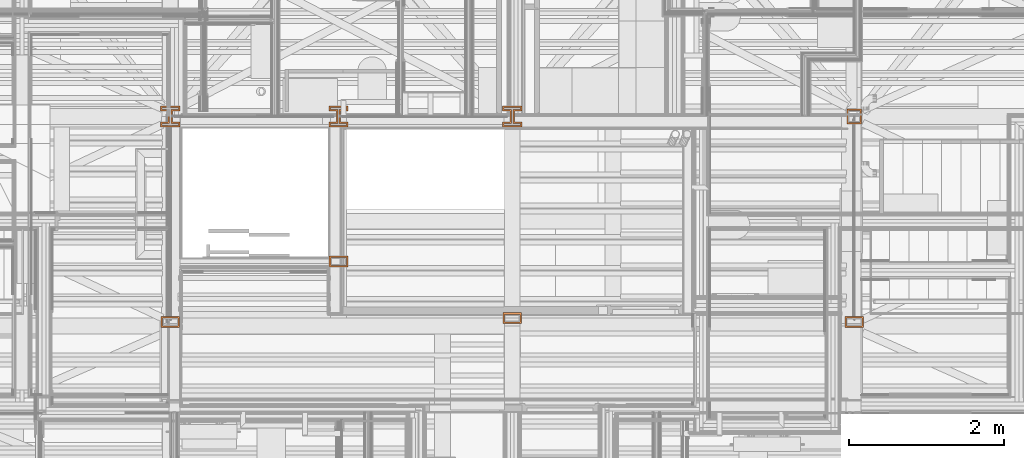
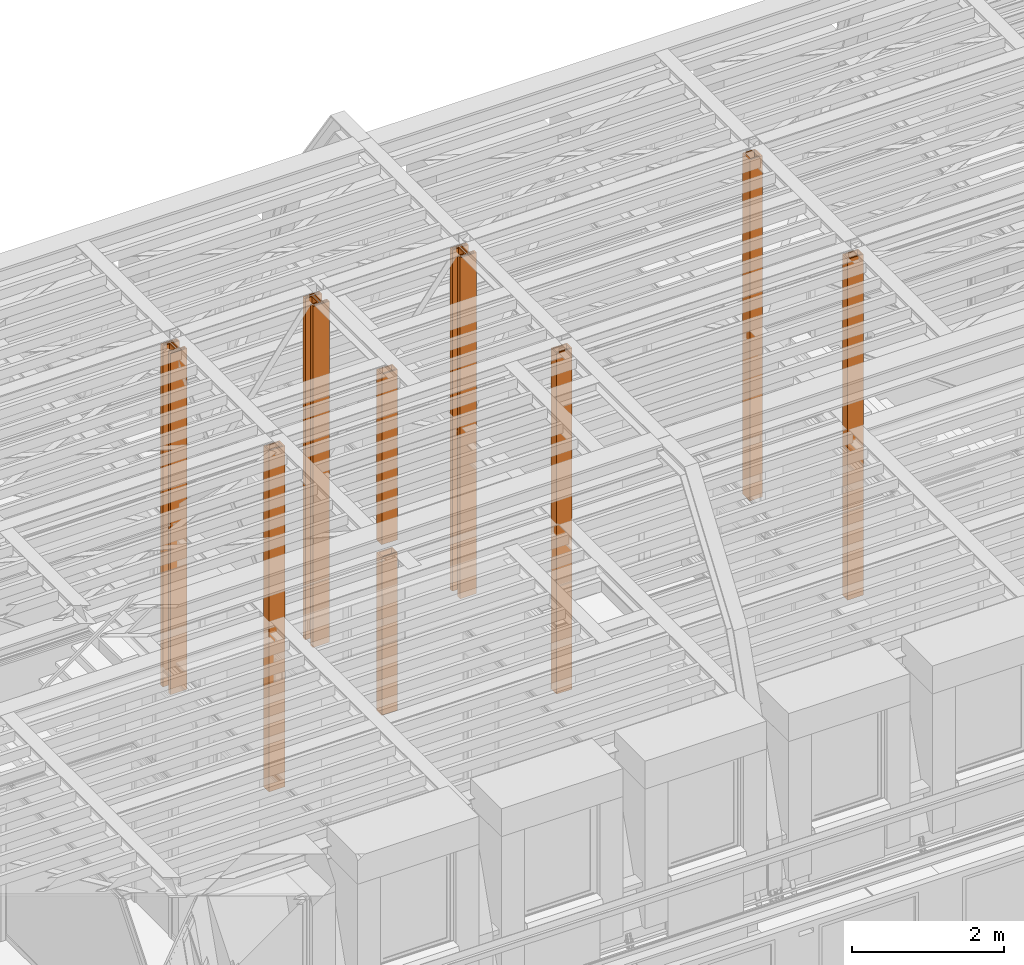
# One storey, part 183 of 183: 9 proxies.
"""IFC2X3 building model written with IfcOpenShell, lengths in metres."""

from ifc_helpers import new_model, entity, si_unit, converted_unit, derived_unit, money_unit, direction, frame, origin_with_axes, place, context, subcontext, project, spatial, polyline, outline, extrude, material, type_object, element, save


model = new_model("IFC2X3")

# Units and contexts
model_context = context("Model", 3, precision=1e-05, world=origin_with_axes(), true_north=direction((0.0, 1.0)))
body_context = subcontext(model_context, "Body", "Model", "MODEL_VIEW", scale=1.0)
ifc_project = project(units=[si_unit("LENGTHUNIT", "METRE"), si_unit("AREAUNIT", "SQUARE_METRE"), si_unit("VOLUMEUNIT", "CUBIC_METRE"), si_unit("ABSORBEDDOSEUNIT", "GRAY"), si_unit("AMOUNTOFSUBSTANCEUNIT", "MOLE"), si_unit("DOSEEQUIVALENTUNIT", "SIEVERT"), si_unit("ELECTRICCAPACITANCEUNIT", "FARAD"), si_unit("ELECTRICCHARGEUNIT", "COULOMB"), si_unit("ELECTRICCONDUCTANCEUNIT", "SIEMENS"), si_unit("ELECTRICCURRENTUNIT", "AMPERE"), si_unit("ELECTRICRESISTANCEUNIT", "OHM"), si_unit("ELECTRICVOLTAGEUNIT", "VOLT"), si_unit("ENERGYUNIT", "JOULE"), si_unit("FORCEUNIT", "NEWTON"), si_unit("FREQUENCYUNIT", "HERTZ"), si_unit("ILLUMINANCEUNIT", "LUX"), si_unit("INDUCTANCEUNIT", "HENRY"), si_unit("LUMINOUSFLUXUNIT", "LUMEN"), si_unit("LUMINOUSINTENSITYUNIT", "CANDELA"), si_unit("MAGNETICFLUXDENSITYUNIT", "TESLA"), si_unit("MAGNETICFLUXUNIT", "WEBER"), si_unit("MASSUNIT", "GRAM"), converted_unit("PLANEANGLEUNIT", "degree", entity("IfcReal", 0.0174532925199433), si_unit("PLANEANGLEUNIT", "RADIAN"), dimensions=[0, 0, 0, 0, 0, 0, 0]), si_unit("POWERUNIT", "WATT"), si_unit("PRESSUREUNIT", "PASCAL"), si_unit("RADIOACTIVITYUNIT", "BECQUEREL"), si_unit("SOLIDANGLEUNIT", "STERADIAN"), si_unit("THERMODYNAMICTEMPERATUREUNIT", "KELVIN"), si_unit("TIMEUNIT", "SECOND"), derived_unit("ACCELERATIONUNIT", [(si_unit("LENGTHUNIT", "METRE"), 1), (si_unit("TIMEUNIT", "SECOND"), -2)]), derived_unit("ANGULARVELOCITYUNIT", [(converted_unit("PLANEANGLEUNIT", "degree", entity("IfcReal", 0.0174532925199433), si_unit("PLANEANGLEUNIT", "RADIAN"), dimensions=[0, 0, 0, 0, 0, 0, 0]), 1), (si_unit("TIMEUNIT", "SECOND"), -1)]), derived_unit("CURVATUREUNIT", [(converted_unit("PLANEANGLEUNIT", "degree", entity("IfcReal", 0.0174532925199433), si_unit("PLANEANGLEUNIT", "RADIAN"), dimensions=[0, 0, 0, 0, 0, 0, 0]), 1), (si_unit("LENGTHUNIT", "METRE"), -1)]), derived_unit("DYNAMICVISCOSITYUNIT", [(si_unit("PRESSUREUNIT", "PASCAL"), 1), (si_unit("TIMEUNIT", "SECOND"), 1)]), derived_unit("HEATFLUXDENSITYUNIT", [(si_unit("POWERUNIT", "WATT"), 1), (si_unit("LENGTHUNIT", "METRE"), -2)]), derived_unit("HEATINGVALUEUNIT", [(si_unit("ENERGYUNIT", "JOULE"), 1), (si_unit("MASSUNIT", "GRAM"), -1)]), derived_unit("INTEGERCOUNTRATEUNIT", [(si_unit("TIMEUNIT", "SECOND"), -1)]), derived_unit("IONCONCENTRATIONUNIT", [(si_unit("MASSUNIT", "GRAM"), 1), (si_unit("VOLUMEUNIT", "CUBIC_METRE"), -1)]), derived_unit("ISOTHERMALMOISTURECAPACITYUNIT", [(si_unit("VOLUMEUNIT", "CUBIC_METRE"), 1), (si_unit("MASSUNIT", "GRAM"), -1)]), derived_unit("KINEMATICVISCOSITYUNIT", [(si_unit("AREAUNIT", "SQUARE_METRE"), 1), (si_unit("TIMEUNIT", "SECOND"), -1)]), derived_unit("LINEARFORCEUNIT", [(si_unit("FORCEUNIT", "NEWTON"), 1), (si_unit("LENGTHUNIT", "METRE"), -1)]), derived_unit("LINEARMOMENTUNIT", [(si_unit("FORCEUNIT", "NEWTON"), 1), (si_unit("LENGTHUNIT", "METRE"), -1)]), derived_unit("LINEARSTIFFNESSUNIT", [(si_unit("FORCEUNIT", "NEWTON"), 1), (si_unit("LENGTHUNIT", "METRE"), -1)]), derived_unit("LINEARVELOCITYUNIT", [(si_unit("LENGTHUNIT", "METRE"), 1), (si_unit("TIMEUNIT", "SECOND"), -1)]), derived_unit("LUMINOUSINTENSITYDISTRIBUTIONUNIT", [(si_unit("LUMINOUSINTENSITYUNIT", "CANDELA"), 1), (si_unit("LUMINOUSFLUXUNIT", "LUMEN"), -1)]), derived_unit("MASSDENSITYUNIT", [(si_unit("MASSUNIT", "GRAM"), 1), (si_unit("VOLUMEUNIT", "CUBIC_METRE"), -1)]), derived_unit("MASSFLOWRATEUNIT", [(si_unit("MASSUNIT", "GRAM"), 1), (si_unit("TIMEUNIT", "SECOND"), -1)]), derived_unit("MASSPERLENGTHUNIT", [(si_unit("MASSUNIT", "GRAM"), 1), (si_unit("LENGTHUNIT", "METRE"), -1)]), derived_unit("MODULUSOFELASTICITYUNIT", [(si_unit("FORCEUNIT", "NEWTON"), 1), (si_unit("AREAUNIT", "SQUARE_METRE"), -1)]), derived_unit("MODULUSOFLINEARSUBGRADEREACTIONUNIT", [(si_unit("FORCEUNIT", "NEWTON"), 1), (si_unit("LENGTHUNIT", "METRE"), -2)]), derived_unit("MODULUSOFROTATIONALSUBGRADEREACTIONUNIT", [(si_unit("FORCEUNIT", "NEWTON"), 1), (si_unit("LENGTHUNIT", "METRE"), 1)]), derived_unit("MODULUSOFSUBGRADEREACTIONUNIT", [(si_unit("FORCEUNIT", "NEWTON"), 1), (si_unit("VOLUMEUNIT", "CUBIC_METRE"), -1)]), derived_unit("MOISTUREDIFFUSIVITYUNIT", [(si_unit("VOLUMEUNIT", "CUBIC_METRE"), 1), (si_unit("TIMEUNIT", "SECOND"), -1)]), derived_unit("MOLECULARWEIGHTUNIT", [(si_unit("MASSUNIT", "GRAM"), 1), (si_unit("AMOUNTOFSUBSTANCEUNIT", "MOLE"), -1)]), derived_unit("PLANARFORCEUNIT", [(si_unit("FORCEUNIT", "NEWTON"), 1), (si_unit("LENGTHUNIT", "METRE"), -2)]), derived_unit("ROTATIONALFREQUENCYUNIT", [(si_unit("TIMEUNIT", "SECOND"), -1)]), derived_unit("ROTATIONALMASSUNIT", [(si_unit("MASSUNIT", "GRAM"), 1), (si_unit("LENGTHUNIT", "METRE"), 2)]), derived_unit("ROTATIONALSTIFFNESSUNIT", [(si_unit("FORCEUNIT", "NEWTON"), 1), (si_unit("LENGTHUNIT", "METRE"), 1), (converted_unit("PLANEANGLEUNIT", "degree", entity("IfcReal", 0.0174532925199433), si_unit("PLANEANGLEUNIT", "RADIAN"), dimensions=[0, 0, 0, 0, 0, 0, 0]), -1)]), derived_unit("SECTIONAREAINTEGRALUNIT", [(si_unit("LENGTHUNIT", "METRE"), 5)]), derived_unit("SECTIONMODULUSUNIT", [(si_unit("LENGTHUNIT", "METRE"), 3)]), derived_unit("SHEARMODULUSUNIT", [(si_unit("FORCEUNIT", "NEWTON"), 1), (si_unit("AREAUNIT", "SQUARE_METRE"), -1)]), derived_unit("SOUNDPOWERUNIT", [(si_unit("ENERGYUNIT", "JOULE"), 1), (si_unit("TIMEUNIT", "SECOND"), -1)]), derived_unit("SPECIFICHEATCAPACITYUNIT", [(si_unit("FORCEUNIT", "NEWTON"), 1), (si_unit("MASSUNIT", "GRAM"), -1), (si_unit("THERMODYNAMICTEMPERATUREUNIT", "KELVIN"), -1)]), derived_unit("TEMPERATUREGRADIENTUNIT", [(si_unit("THERMODYNAMICTEMPERATUREUNIT", "KELVIN"), 1), (si_unit("LENGTHUNIT", "METRE"), -1)]), derived_unit("THERMALADMITTANCEUNIT", [(si_unit("POWERUNIT", "WATT"), 1), (si_unit("AREAUNIT", "SQUARE_METRE"), -1), (si_unit("THERMODYNAMICTEMPERATUREUNIT", "KELVIN"), -1)]), derived_unit("THERMALCONDUCTANCEUNIT", [(si_unit("POWERUNIT", "WATT"), 1), (si_unit("LENGTHUNIT", "METRE"), -1), (si_unit("THERMODYNAMICTEMPERATUREUNIT", "KELVIN"), -1)]), derived_unit("THERMALEXPANSIONCOEFFICIENTUNIT", [(si_unit("THERMODYNAMICTEMPERATUREUNIT", "KELVIN"), -1)]), derived_unit("THERMALRESISTANCEUNIT", [(si_unit("AREAUNIT", "SQUARE_METRE"), 1), (si_unit("POWERUNIT", "WATT"), -1)]), derived_unit("THERMALTRANSMITTANCEUNIT", [(si_unit("POWERUNIT", "WATT"), 1), (si_unit("AREAUNIT", "SQUARE_METRE"), -1), (si_unit("THERMODYNAMICTEMPERATUREUNIT", "KELVIN"), -1)]), derived_unit("TORQUEUNIT", [(si_unit("FORCEUNIT", "NEWTON"), 1), (si_unit("LENGTHUNIT", "METRE"), 1)]), derived_unit("VAPORPERMEABILITYUNIT", [(si_unit("MASSUNIT", "GRAM"), 1), (si_unit("TIMEUNIT", "SECOND"), -1)]), derived_unit("VOLUMETRICFLOWRATEUNIT", [(si_unit("VOLUMEUNIT", "CUBIC_METRE"), 1), (si_unit("TIMEUNIT", "SECOND"), -1)]), derived_unit("WARPINGCONSTANTUNIT", [(si_unit("LENGTHUNIT", "METRE"), 6)]), derived_unit("WARPINGMOMENTUNIT", [(si_unit("FORCEUNIT", "NEWTON"), 1), (si_unit("LENGTHUNIT", "METRE"), 2)]), money_unit("GBP")], contexts=[model_context])

# Site, building, storey
site_placement = place(None, origin_with_axes())
site = spatial("IfcSite", under=ifc_project, at=site_placement, Name="Site", CompositionType="ELEMENT")
building_placement = place(site_placement, origin_with_axes())
building = spatial("IfcBuilding", under=site, at=building_placement, Name="Building01", CompositionType="ELEMENT")
storey_placement = place(building_placement, frame((0.0, 0.0, 5.15), z_axis=(0.0, 0.0, 1.0), x_axis=(1.0, 0.0, 0.0)))
storey = spatial("IfcBuildingStorey", under=building, at=storey_placement, Name="1F", CompositionType="ELEMENT", Elevation=5.15)

# Proxies
ifc_material = material(Name="Cementitious")
building_element_proxy_type = type_object("IfcBuildingElementProxyType", Name="Fireproofing:Cementitious", PredefinedType="NOTDEFINED")
proxy_1_placement = place(storey_placement, frame((11.14, 7.0, 12.48), z_axis=(0.0, 0.0, 1.0), x_axis=(0.0, -1.0, 0.0)))
element("IfcBuildingElementProxy", 1, at=proxy_1_placement, inside=storey, type_object=building_element_proxy_type, material=ifc_material, Name="Fireproofing--Cementitious", ObjectType="Fireproofing:Cementitious", context=body_context, shape_type="SweptSolid", body=[
    extrude(outline(polyline([(0.0, 0.0), (0.14, 0.0), (0.14, 0.24), (0.0, 0.24), (0.0, 0.0)]), holes=[polyline([(0.12, 0.22), (0.12, 0.02), (0.02, 0.02), (0.02, 0.22), (0.12, 0.22)])]), origin_with_axes(), (0.0, 0.0, 1.0), 2.747),
])
proxy_2_placement = place(storey_placement, frame((8.97, 6.22, 9.73), z_axis=(0.0, 0.0, 1.0), x_axis=(0.0, -1.0, 0.0)))
element("IfcBuildingElementProxy", 2, at=proxy_2_placement, inside=storey, type_object=building_element_proxy_type, material=ifc_material, Name="Fireproofing--Cementitious", ObjectType="Fireproofing:Cementitious", context=body_context, shape_type="SweptSolid", body=[
    extrude(outline(polyline([(0.0, 0.0), (0.14, 0.0), (0.14, 0.24), (0.0, 0.24), (0.0, 0.0)]), holes=[polyline([(0.12, 0.22), (0.12, 0.02), (0.02, 0.02), (0.02, 0.22), (0.12, 0.22)])]), origin_with_axes(), (0.0, 0.0, 1.0), 5.497),
])
proxy_3_placement = place(storey_placement, frame((11.14, 7.0, 9.73), z_axis=(0.0, 0.0, 1.0), x_axis=(0.0, -1.0, 0.0)))
element("IfcBuildingElementProxy", 3, at=proxy_3_placement, inside=storey, type_object=building_element_proxy_type, material=ifc_material, Name="Fireproofing--Cementitious", ObjectType="Fireproofing:Cementitious", context=body_context, shape_type="SweptSolid", body=[
    extrude(outline(polyline([(0.0, 0.0), (0.14, 0.0), (0.14, 0.24), (0.0, 0.24), (0.0, 0.0)]), holes=[polyline([(0.12, 0.22), (0.12, 0.02), (0.02, 0.02), (0.02, 0.22), (0.12, 0.22)])]), origin_with_axes(), (0.0, 0.0, 1.0), 2.547),
])
for number, where, z_axis, x_axis, name in (
    (4, (9.21515, 8.6657, 9.73), (0.0, 0.0, 1.0), (0.0, 1.0, 0.0), "Fireproofing--Cementitious"),
    (5, (11.38515, 8.6657, 9.73), (0.0, 0.0, 1.0), (0.0, 1.0, 0.0), "Fireproofing--Cementitious"),
    (6, (13.62515, 8.6657, 9.73), (0.0, 0.0, 1.0), (0.0, 1.0, 0.0), "Fireproofing--Cementitious"),
):
    element("IfcBuildingElementProxy", number, at=place(storey_placement, frame(where, z_axis=z_axis, x_axis=x_axis)), inside=storey, type_object=building_element_proxy_type, material=ifc_material, Name=name, ObjectType="Fireproofing:Cementitious", context=body_context, shape_type="SweptSolid", body=[
        extrude(outline(polyline([(0.0, 0.0), (0.0637, 0.0), (0.0637, 0.0979), (0.2049, 0.0979), (0.2049, 0.0), (0.2686, 0.0), (0.2686, 0.2503), (0.2049, 0.2503), (0.2049, 0.1524), (0.0637, 0.1524), (0.0637, 0.2503), (0.0, 0.2503), (0.0, 0.0)]), holes=[polyline([(0.02, 0.2303), (0.0437, 0.2303), (0.0437, 0.1324), (0.2249, 0.1324), (0.2249, 0.2303), (0.2486, 0.2303), (0.2486, 0.02), (0.2249, 0.02), (0.2249, 0.1179), (0.0437, 0.1179), (0.0437, 0.02), (0.02, 0.02), (0.02, 0.2303)])]), origin_with_axes(), (0.0, 0.0, 1.0), 5.497),
    ])
proxy_4_placement = place(storey_placement, frame((18.005, 8.895, 9.73), z_axis=(0.0, 0.0, 1.0), x_axis=(-1.0, 0.0, 0.0)))
element("IfcBuildingElementProxy", 7, at=proxy_4_placement, inside=storey, type_object=building_element_proxy_type, material=ifc_material, Name="Fireproofing--Cementitious", ObjectType="Fireproofing:Cementitious", context=body_context, shape_type="SweptSolid", body=[
    extrude(outline(polyline([(0.0, 0.0), (0.19, 0.0), (0.19, 0.19), (0.0, 0.19), (0.0, 0.0)]), holes=[polyline([(0.17, 0.17), (0.17, 0.02), (0.02, 0.02), (0.02, 0.17), (0.17, 0.17)])]), origin_with_axes(), (0.0, 0.0, 1.0), 5.497),
])
for number, where, z_axis, x_axis, name in (
    (8, (17.79, 6.22, 9.73), (0.0, 0.0, 1.0), (0.0, -1.0, 0.0), "Fireproofing--Cementitious"),
    (9, (13.38, 6.27, 9.73), (0.0, 0.0, 1.0), (0.0, -1.0, 0.0), "Fireproofing--Cementitious"),
):
    element("IfcBuildingElementProxy", number, at=place(storey_placement, frame(where, z_axis=z_axis, x_axis=x_axis)), inside=storey, type_object=building_element_proxy_type, material=ifc_material, Name=name, ObjectType="Fireproofing:Cementitious", context=body_context, shape_type="SweptSolid", body=[
        extrude(outline(polyline([(0.0, 0.0), (0.14, 0.0), (0.14, 0.24), (0.0, 0.24), (0.0, 0.0)]), holes=[polyline([(0.12, 0.22), (0.12, 0.02), (0.02, 0.02), (0.02, 0.22), (0.12, 0.22)])]), origin_with_axes(), (0.0, 0.0, 1.0), 5.497),
    ])

save(model, "model.ifc")
